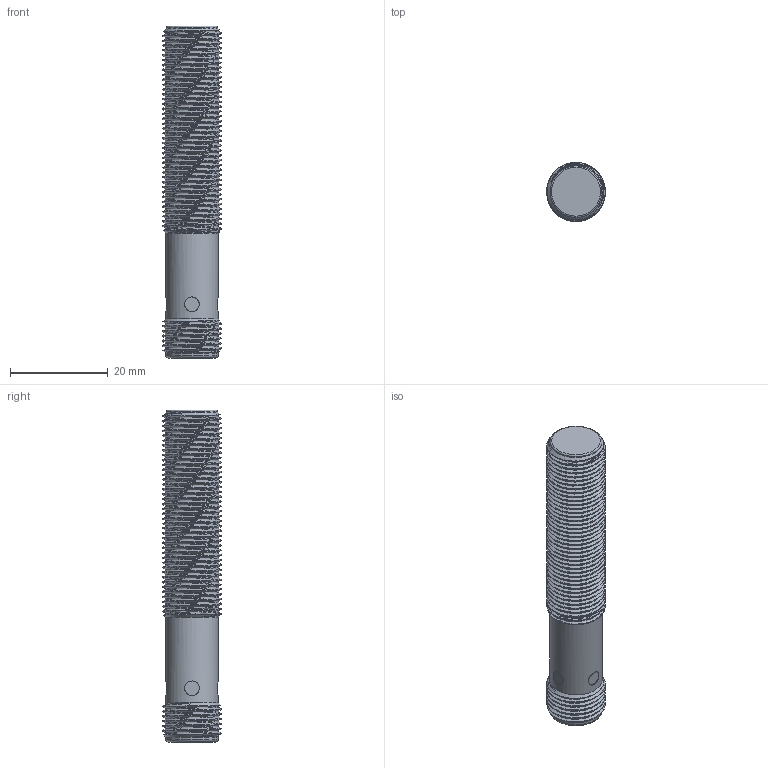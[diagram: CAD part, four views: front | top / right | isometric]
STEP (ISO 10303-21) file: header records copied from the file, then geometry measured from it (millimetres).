
FILE_DESCRIPTION(/* description */ (''),/* implementation_level */ '2;1');
FILE_NAME(/* name */ '电感式M12x68埋入接头.stp',/* time_stamp */ '2025-04-15T14:37:21+08:00',/* author */ (''),/* organization */ (''),/* preprocessor_version */ 'ST-DEVELOPER v16.7',/* originating_system */ 'SIEMENS PLM Software NX 1872',/* authorisation */ '');
FILE_SCHEMA (('AP203_CONFIGURATION_CONTROLLED_3D_DESIGN_OF_MECHANICAL_PARTS_AND_ASSEMBLIES_MIM_LF { 1 0 10303 403 2 1 2}'));
Length unit declared in the file: millimetre
Products named in the file (1): 电感式M12x68埋入接头
Bounding box: 12 x 12 x 68 mm (x, y, z)
Volume: 6256.8 mm3; surface area: 3807.2 mm2
Topology: 1 solids, 1 shells, 42 faces, 107 edges, 71 vertices
Faces by surface type: cylinder 17, plane 9, cone 6, bspline 4, sphere 4, torus 2
Full cylindrical faces by diameter (mm): 1 x4, 3 x4, 10.6 x1, 10.7 x2
Entity records: 6982 total; most frequent: CARTESIAN_POINT 6177, DIRECTION 146, ORIENTED_EDGE 120, AXIS2_PLACEMENT_3D 69, EDGE_LOOP 66, EDGE_CURVE 60, VERTEX_POINT 48, FACE_BOUND 45
